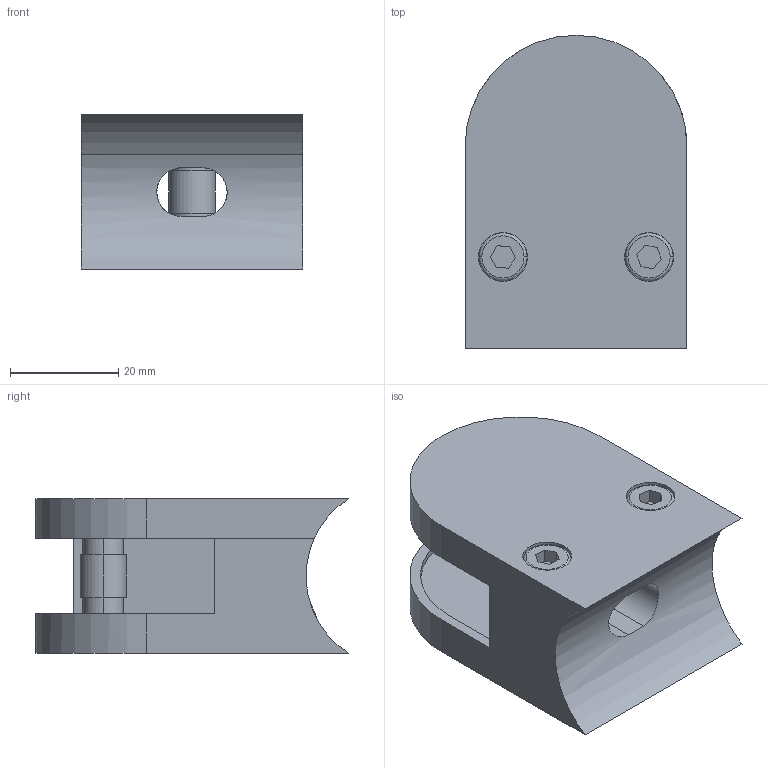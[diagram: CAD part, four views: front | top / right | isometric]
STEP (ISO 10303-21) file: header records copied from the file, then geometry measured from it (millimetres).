
FILE_DESCRIPTION (( 'STEP AP203' ), '1' );
FILE_NAME ('3D_GG4002_G 33.7_188758200.STEP', '2024-11-01T11:07:12', ( '' ), ( '' ), 'SwSTEP 2.0', 'SolidWorks 2023', '' );
FILE_SCHEMA (( 'CONFIG_CONTROL_DESIGN' ));
Length unit declared in the file: millimetre
Products named in the file (1): 3D_GG4002_G 33.7_188758200
Bounding box: 41 x 57.86 x 28.5 mm (x, y, z)
Volume: 37832.5 mm3; surface area: 16697.6 mm2
Topology: 5 solids, 5 shells, 99 faces, 217 edges, 142 vertices
Faces by surface type: plane 51, cylinder 40, torus 4, cone 4
Entity records: 2881 total; most frequent: CARTESIAN_POINT 525, DIRECTION 506, ORIENTED_EDGE 434, EDGE_CURVE 217, AXIS2_PLACEMENT_3D 191, VERTEX_POINT 142, LINE 124, VECTOR 124
